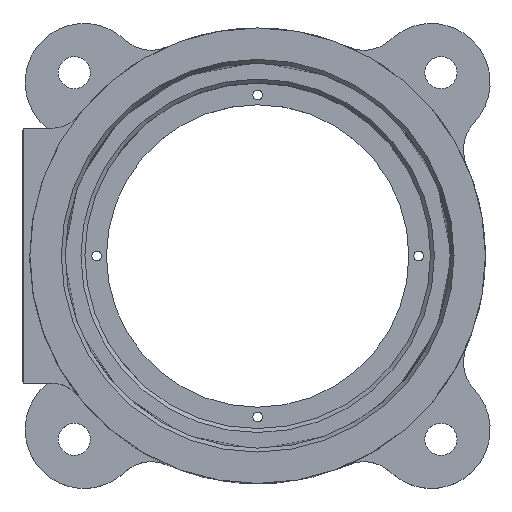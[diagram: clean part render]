
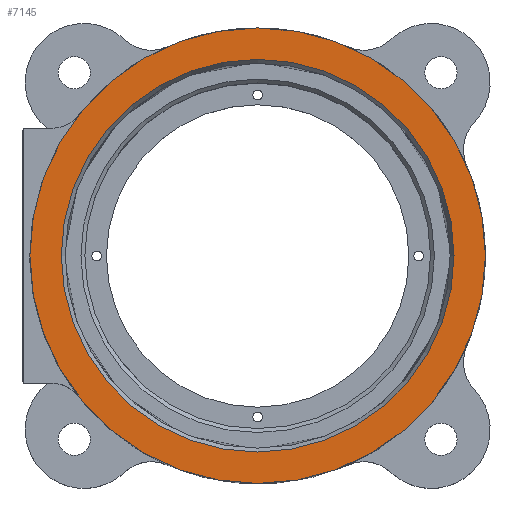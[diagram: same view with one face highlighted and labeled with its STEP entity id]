
A CAD part, top view. The second image highlights one B-rep face of the part: STEP entity #7145.
In plain terms, the highlighted planar face has unit normal (0, 0, 1).
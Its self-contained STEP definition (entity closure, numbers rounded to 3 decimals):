
#327 = DIRECTION ( 'NONE',  ( 0., 0., 1. ) ) ;
#980 = EDGE_CURVE ( 'NONE', #6914, #6914, #3068, .T. ) ;
#1136 = CARTESIAN_POINT ( 'NONE',  ( 58., 0., 53.3 ) ) ;
#1203 = PLANE ( 'NONE',  #5460 ) ;
#1381 = CARTESIAN_POINT ( 'NONE',  ( 0., 0., 53.3 ) ) ;
#1847 = ORIENTED_EDGE ( 'NONE', *, *, #980, .T. ) ;
#2309 = CARTESIAN_POINT ( 'NONE',  ( 0., 0., 53.3 ) ) ;
#2524 = DIRECTION ( 'NONE',  ( 1., 0., 0. ) ) ;
#2612 = DIRECTION ( 'NONE',  ( 0., 0., 1. ) ) ;
#3068 = CIRCLE ( 'NONE', #6411, 50. ) ;
#3861 = AXIS2_PLACEMENT_3D ( 'NONE', #1381, #2612, #8891 ) ;
#3988 = CARTESIAN_POINT ( 'NONE',  ( 0., 0., 53.3 ) ) ;
#4234 = DIRECTION ( 'NONE',  ( 0., 0., -1. ) ) ;
#4414 = EDGE_LOOP ( 'NONE', ( #5964 ) ) ;
#4595 = VERTEX_POINT ( 'NONE', #1136 ) ;
#5460 = AXIS2_PLACEMENT_3D ( 'NONE', #3988, #327, #2524 ) ;
#5682 = DIRECTION ( 'NONE',  ( 1., 0., 0. ) ) ;
#5964 = ORIENTED_EDGE ( 'NONE', *, *, #6437, .T. ) ;
#6028 = FACE_BOUND ( 'NONE', #7660, .T. ) ;
#6100 = CARTESIAN_POINT ( 'NONE',  ( 50., 0., 53.3 ) ) ;
#6411 = AXIS2_PLACEMENT_3D ( 'NONE', #2309, #4234, #5682 ) ;
#6437 = EDGE_CURVE ( 'NONE', #4595, #4595, #6625, .T. ) ;
#6589 = FACE_OUTER_BOUND ( 'NONE', #4414, .T. ) ;
#6625 = CIRCLE ( 'NONE', #3861, 58. ) ;
#6914 = VERTEX_POINT ( 'NONE', #6100 ) ;
#7145 = ADVANCED_FACE ( 'NONE', ( #6028, #6589 ), #1203, .T. ) ;
#7660 = EDGE_LOOP ( 'NONE', ( #1847 ) ) ;
#8891 = DIRECTION ( 'NONE',  ( 1., 0., 0. ) ) ;
